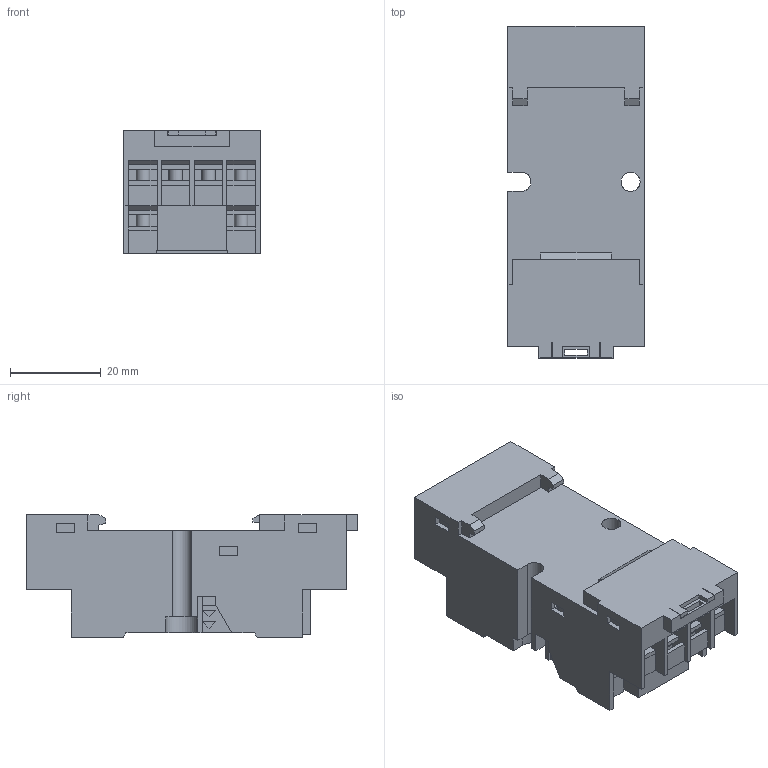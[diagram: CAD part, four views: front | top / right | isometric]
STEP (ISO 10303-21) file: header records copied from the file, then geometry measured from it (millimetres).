
FILE_DESCRIPTION(('STEP AP214'),'2;1');
FILE_NAME('94.74+morsetti_catalogo.stp','2011-05-26T12:57:10',(''),(''),'2007.1.106','THINKDESIGN','');
FILE_SCHEMA(('AUTOMOTIVE_DESIGN'));
Products named in the file (1): None
Bounding box: 30 x 73 x 27 mm (x, y, z)
Surface area: 23794.4 mm2 (no closed solid volume)
Topology: 0 solids, 0 shells, 804 faces, 4736 edges, 4718 vertices
Faces by surface type: plane 726, bspline 44, cylinder 34
Full cylindrical faces by diameter (mm): 3 x1, 4.2 x1, 4.7 x15, 4.8 x14
Entity records: 46988 total; most frequent: CARTESIAN_POINT 12698, DIRECTION 6034, COMPOSITE_CURVE_SEGMENT 4694, TRIMMED_CURVE 4336, VECTOR 4158, LINE 4158, AXIS2_PLACEMENT_3D 938, STYLED_ITEM 804
